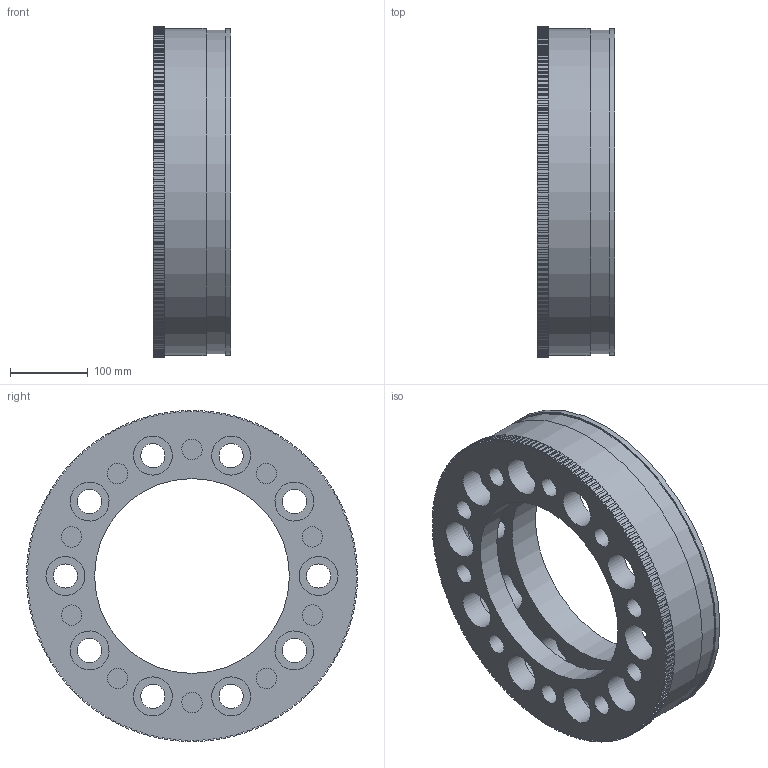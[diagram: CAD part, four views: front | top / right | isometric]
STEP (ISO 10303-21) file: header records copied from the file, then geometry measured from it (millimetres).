
FILE_DESCRIPTION(/* description */ (''),/* implementation_level */ '2;1');
FILE_NAME(/* name */ 'F:\Sensorik\Standard_Messflansche\15_35000_100000_Nm\RF-420x100_LK325_10xM30_200H7\RF-420_V.stp',/* time_stamp */ '2014-04-29T13:47:20+02:00',/* author */ ('Lander'),/* organization */ (''),/* preprocessor_version */ 'ST-DEVELOPER v15.2',/* originating_system */ 'Autodesk Inventor 2014',/* authorisation */ '');
FILE_SCHEMA (('AUTOMOTIVE_DESIGN { 1 0 10303 214 3 1 1 }'));
Length unit declared in the file: millimetre
Products named in the file (1): RF-420_Freigabemodell
Bounding box: 100 x 424.99 x 424.99 mm (x, y, z)
Volume: 5302549.2 mm3; surface area: 642494 mm2
Topology: 1 solids, 1 shells, 787 faces, 2338 edges, 1566 vertices
Faces by surface type: plane 555, cylinder 226, torus 4, cone 2
Full cylindrical faces by diameter (mm): 26.211 x10, 31 x10, 50 x20, 250 x2, 404 x1, 415 x1, 420 x2
Entity records: 25902 total; most frequent: CARTESIAN_POINT 4580, ORIENTED_EDGE 4512, DIRECTION 4288, EDGE_CURVE 2256, LINE 1800, VECTOR 1800, VERTEX_POINT 1536, AXIS2_PLACEMENT_3D 1244
